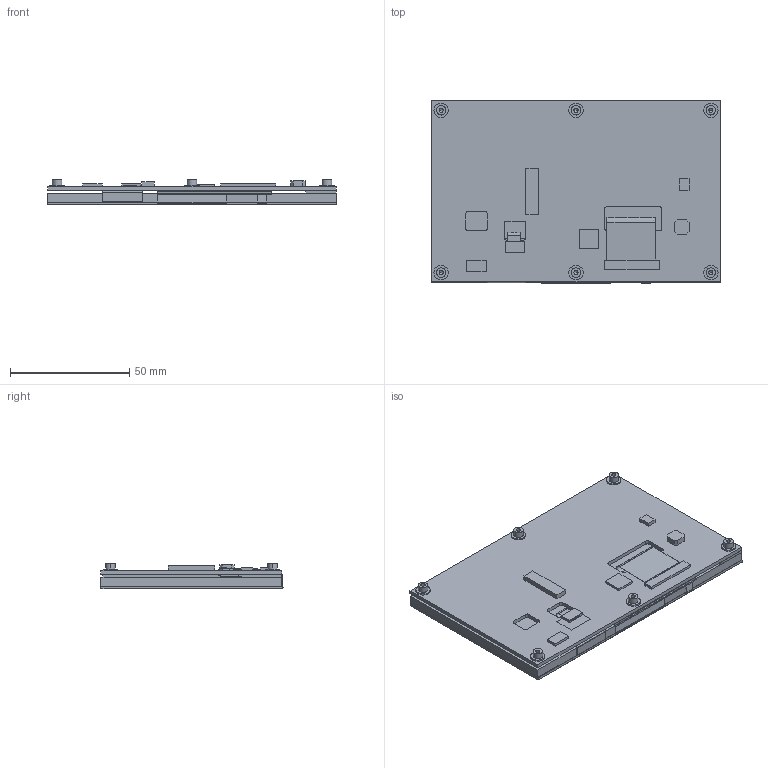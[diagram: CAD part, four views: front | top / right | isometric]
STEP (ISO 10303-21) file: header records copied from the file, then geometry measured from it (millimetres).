
FILE_DESCRIPTION (( 'STEP AP214' ), '1' );
FILE_NAME ('CFAF800480E1-050SC-A2.STEP', '2021-06-30T21:20:55', ( '' ), ( '' ), 'SwSTEP 2.0', 'SolidWorks 2021', '' );
FILE_SCHEMA (( 'AUTOMOTIVE_DESIGN' ));
Length unit declared in the file: millimetre
Products named in the file (4): CFAF800480E1-050SC drawing; clear_1mm_tape; cfa_10100_PCB; CFAF800480E1-050SC-A2
Assembly tree (3 placements, depth 2):
  CFAF800480E1-050SC-A2
    cfa_10100_PCB
    CFAF800480E1-050SC drawing
    clear_1mm_tape
Bounding box: 120.7 x 76.26 x 10.72 mm (x, y, z)
Volume: 46604.8 mm3; surface area: 64340.5 mm2
Topology: 4 solids, 6 shells, 411 faces, 1127 edges, 744 vertices
Faces by surface type: plane 332, cylinder 58, cone 12, bspline 9
Entity records: 19393 total; most frequent: CARTESIAN_POINT 5681, ORIENTED_EDGE 2230, DIRECTION 1335, EDGE_CURVE 1115, VERTEX_POINT 744, B_SPLINE_CURVE_WITH_KNOTS 714, AXIS2_PLACEMENT_3D 525, EDGE_LOOP 445
